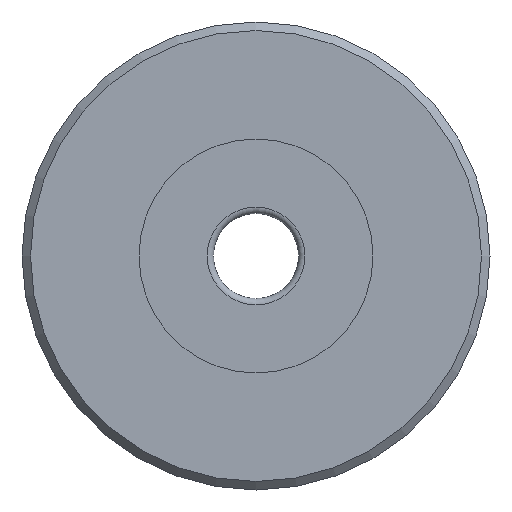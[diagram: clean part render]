
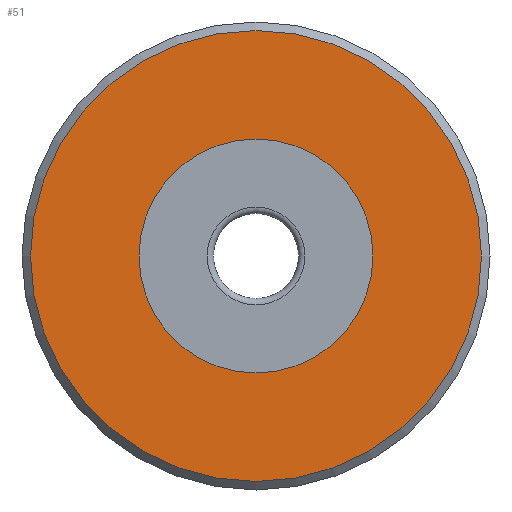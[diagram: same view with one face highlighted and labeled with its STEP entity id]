
A CAD part, left-side view. The second image highlights one B-rep face of the part: STEP entity #51.
In plain terms, the highlighted planar face has unit normal (-1, 0, 0).
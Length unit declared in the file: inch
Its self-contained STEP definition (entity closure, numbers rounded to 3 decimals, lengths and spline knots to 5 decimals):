
#24=CARTESIAN_POINT('',(11.,17.3,0.));
#25=VERTEX_POINT('',#24);
#26=CARTESIAN_POINT('',(11.,12.,0.));
#27=DIRECTION('',(-1.,0.,0.));
#28=DIRECTION('',(0.,1.,0.));
#29=AXIS2_PLACEMENT_3D('',#26,#27,#28);
#30=CIRCLE('',#29,5.3);
#31=EDGE_CURVE('',#25,#25,#30,.T.);
#32=ORIENTED_EDGE('',*,*,#31,.T.);
#33=EDGE_LOOP('',(#32));
#34=FACE_OUTER_BOUND('',#33,.T.);
#35=CARTESIAN_POINT('',(11.,14.75,0.));
#36=VERTEX_POINT('',#35);
#37=CARTESIAN_POINT('',(11.,12.,0.));
#38=DIRECTION('',(-1.,0.,0.));
#39=DIRECTION('',(0.,1.,0.));
#40=AXIS2_PLACEMENT_3D('',#37,#38,#39);
#41=CIRCLE('',#40,2.75);
#42=EDGE_CURVE('',#36,#36,#41,.T.);
#43=ORIENTED_EDGE('',*,*,#42,.F.);
#44=EDGE_LOOP('',(#43));
#45=FACE_BOUND('',#44,.T.);
#46=CARTESIAN_POINT('',(11.,16.025,0.));
#47=DIRECTION('',(-1.,0.,0.));
#48=DIRECTION('',(0.,1.,0.));
#49=AXIS2_PLACEMENT_3D('',#46,#47,#48);
#50=PLANE('',#49);
#51=ADVANCED_FACE('',(#34,#45),#50,.T.);
